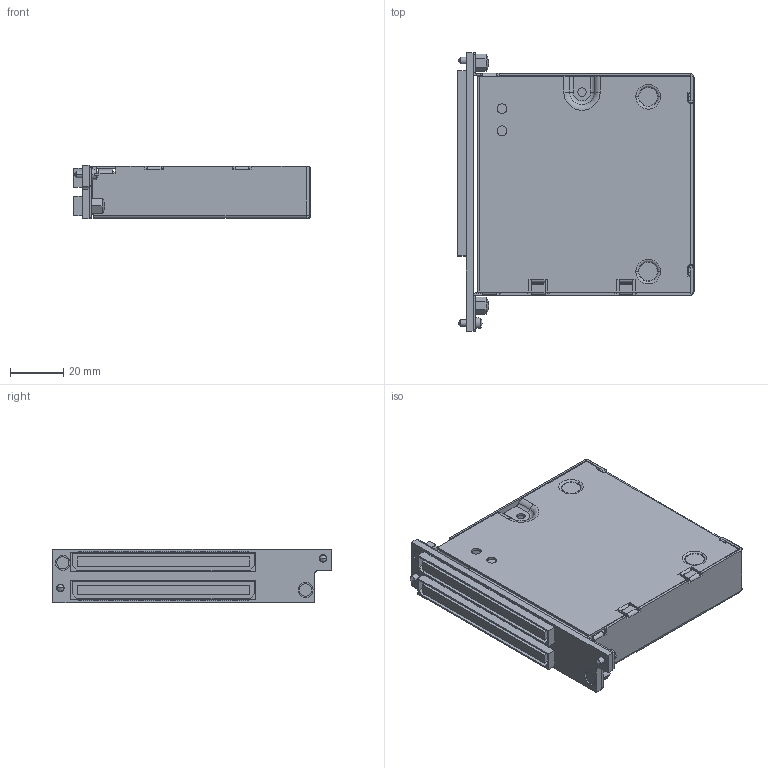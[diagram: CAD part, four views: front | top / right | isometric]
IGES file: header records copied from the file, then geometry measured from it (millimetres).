
Start section:  PTC IGES file: cu_tb-2642.igs
Global section: file name: cu_tb-2642.igs; native system: Pro/ENGINEER by Parametric Technology Corporation; preprocessor: 2010230; author: jjorden; organization: Unknown; date: 20110812.214049; units: inch
Bounding box: 88.62 x 104.04 x 20.02 mm (x, y, z)
Surface area: 44565.6 mm2 (no closed solid volume)
Topology: 0 solids, 0 shells, 1872 faces, 10598 edges, 10590 vertices
Faces by surface type: bspline 1667, revolution 205
